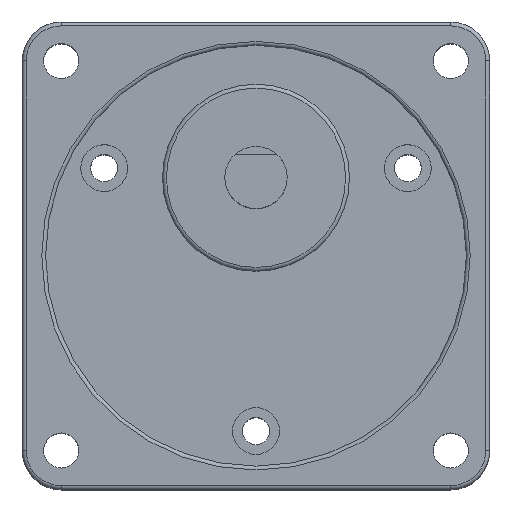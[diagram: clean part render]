
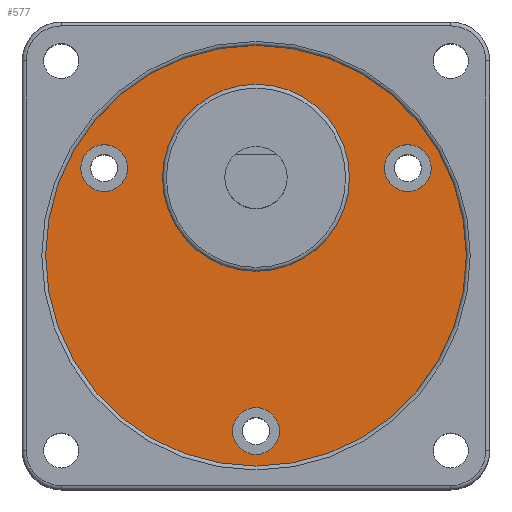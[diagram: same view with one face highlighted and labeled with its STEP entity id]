
A CAD part, top view. The second image highlights one B-rep face of the part: STEP entity #577.
In plain terms, the highlighted planar face has unit normal (0, 0, 1).
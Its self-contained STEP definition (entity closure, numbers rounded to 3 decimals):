
#255=CARTESIAN_POINT('',(27.0,0.,39.5));
#256=VERTEX_POINT('',#255);
#257=CARTESIAN_POINT('',(0.0,0.0,39.5));
#258=DIRECTION('',(0.0,0.0,1.0));
#259=DIRECTION('',(-1.0,0.0,0.0));
#260=AXIS2_PLACEMENT_3D('',#257,#258,#259);
#261=CIRCLE('',#260,27.0);
#262=EDGE_CURVE('',#256,#256,#261,.T.);
#405=CARTESIAN_POINT('',(-20.986,8.652,39.5));
#406=VERTEX_POINT('',#405);
#407=CARTESIAN_POINT('',(-19.486,11.25,39.5));
#408=DIRECTION('',(0.0,0.0,-1.0));
#409=DIRECTION('',(0.5,0.866,0.0));
#410=AXIS2_PLACEMENT_3D('',#407,#408,#409);
#411=CIRCLE('',#410,3.0);
#412=EDGE_CURVE('',#406,#406,#411,.T.);
#465=CARTESIAN_POINT('',(17.986,13.848,39.5));
#466=VERTEX_POINT('',#465);
#467=CARTESIAN_POINT('',(19.486,11.25,39.5));
#468=DIRECTION('',(0.0,0.0,-1.0));
#469=DIRECTION('',(0.5,-0.866,0.0));
#470=AXIS2_PLACEMENT_3D('',#467,#468,#469);
#471=CIRCLE('',#470,3.0);
#472=EDGE_CURVE('',#466,#466,#471,.T.);
#525=CARTESIAN_POINT('',(3.0,-22.5,39.5));
#526=VERTEX_POINT('',#525);
#527=CARTESIAN_POINT('',(0.0,-22.5,39.5));
#528=DIRECTION('',(0.0,0.0,-1.0));
#529=DIRECTION('',(-1.0,0.0,0.0));
#530=AXIS2_PLACEMENT_3D('',#527,#528,#529);
#531=CIRCLE('',#530,3.0);
#532=EDGE_CURVE('',#526,#526,#531,.T.);
#549=CARTESIAN_POINT('',(0.0,0.0,39.5));
#550=DIRECTION('',(0.0,0.0,-1.0));
#551=DIRECTION('',(-1.0,0.0,0.0));
#552=AXIS2_PLACEMENT_3D('',#549,#550,#551);
#553=PLANE('',#552);
#554=ORIENTED_EDGE('',*,*,#262,.T.);
#555=EDGE_LOOP('',(#554));
#556=FACE_OUTER_BOUND('',#555,.T.);
#557=ORIENTED_EDGE('',*,*,#412,.T.);
#558=EDGE_LOOP('',(#557));
#559=FACE_BOUND('',#558,.T.);
#560=ORIENTED_EDGE('',*,*,#472,.T.);
#561=EDGE_LOOP('',(#560));
#562=FACE_BOUND('',#561,.T.);
#563=ORIENTED_EDGE('',*,*,#532,.T.);
#564=EDGE_LOOP('',(#563));
#565=FACE_BOUND('',#564,.T.);
#566=CARTESIAN_POINT('',(12.,10.,39.5));
#567=VERTEX_POINT('',#566);
#568=CARTESIAN_POINT('',(0.0,10.0,39.5));
#569=DIRECTION('',(0.0,0.0,1.0));
#570=DIRECTION('',(-1.0,0.0,0.0));
#571=AXIS2_PLACEMENT_3D('',#568,#569,#570);
#572=CIRCLE('',#571,12.);
#573=EDGE_CURVE('',#567,#567,#572,.T.);
#574=ORIENTED_EDGE('',*,*,#573,.F.);
#575=EDGE_LOOP('',(#574));
#576=FACE_BOUND('',#575,.T.);
#577=ADVANCED_FACE('',(#556,#559,#562,#565,#576),#553,.F.);
